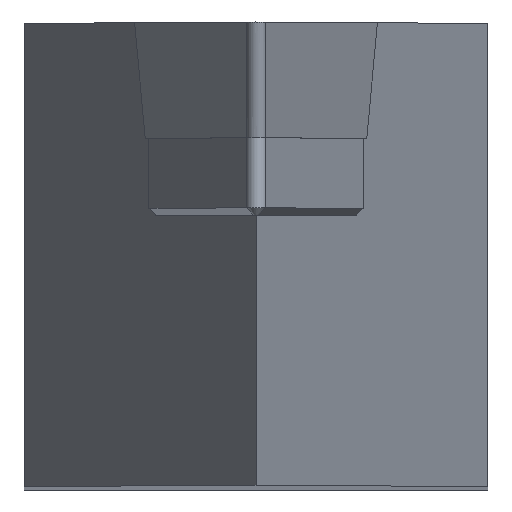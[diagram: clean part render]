
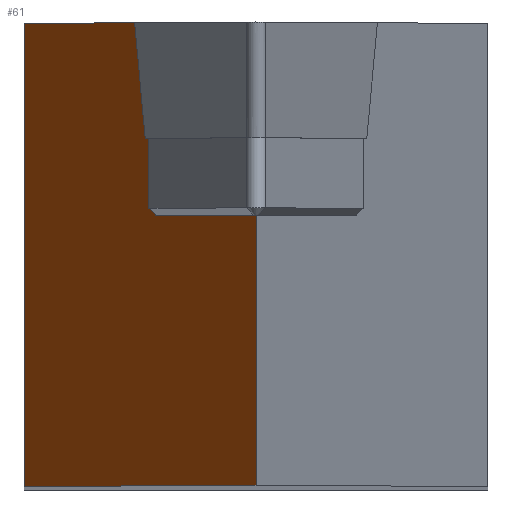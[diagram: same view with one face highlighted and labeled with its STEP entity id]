
A CAD part, top view. The second image highlights one B-rep face of the part: STEP entity #61.
In plain terms, the highlighted planar face has unit normal (-0.954, 0, 0.301).
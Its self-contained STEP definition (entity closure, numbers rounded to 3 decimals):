
#9 = ORIENTED_EDGE ( 'NONE', *, *, #163, .T. ) ;
#50 = ORIENTED_EDGE ( 'NONE', *, *, #1623, .T. ) ;
#61 = ADVANCED_FACE ( 'NONE', ( #1622 ), #953, .F. ) ;
#63 = ORIENTED_EDGE ( 'NONE', *, *, #1549, .F. ) ;
#103 = VECTOR ( 'NONE', #1402, 1000. ) ;
#104 = EDGE_CURVE ( 'NONE', #601, #385, #438, .T. ) ;
#121 = ORIENTED_EDGE ( 'NONE', *, *, #1145, .T. ) ;
#127 = DIRECTION ( 'NONE',  ( -0.301, 0., -0.954 ) ) ;
#150 = AXIS2_PLACEMENT_3D ( 'NONE', #838, #157, #1321 ) ;
#157 = DIRECTION ( 'NONE',  ( 0.954, 0., -0.301 ) ) ;
#163 = EDGE_CURVE ( 'NONE', #401, #1415, #1468, .T. ) ;
#201 = LINE ( 'NONE', #1531, #1150 ) ;
#306 = LINE ( 'NONE', #1146, #1586 ) ;
#312 = LINE ( 'NONE', #856, #1294 ) ;
#317 = ORIENTED_EDGE ( 'NONE', *, *, #1376, .T. ) ;
#354 = VERTEX_POINT ( 'NONE', #1516 ) ;
#355 = DIRECTION ( 'NONE',  ( -0.301, 0., -0.954 ) ) ;
#358 = ORIENTED_EDGE ( 'NONE', *, *, #1366, .T. ) ;
#365 = CARTESIAN_POINT ( 'NONE',  ( -0.187, 4.765, -2.992 ) ) ;
#385 = VERTEX_POINT ( 'NONE', #1498 ) ;
#401 = VERTEX_POINT ( 'NONE', #1369 ) ;
#438 = LINE ( 'NONE', #1000, #103 ) ;
#453 = ORIENTED_EDGE ( 'NONE', *, *, #104, .T. ) ;
#466 = VECTOR ( 'NONE', #1187, 1000. ) ;
#498 = CARTESIAN_POINT ( 'NONE',  ( -9.525, 9.525, -32.609 ) ) ;
#512 = VECTOR ( 'NONE', #675, 1000. ) ;
#572 = DIRECTION ( 'NONE',  ( 0., 1., 0. ) ) ;
#601 = VERTEX_POINT ( 'NONE', #643 ) ;
#643 = CARTESIAN_POINT ( 'NONE',  ( -4.459, 9.525, -16.543 ) ) ;
#675 = DIRECTION ( 'NONE',  ( 0., -1., 0. ) ) ;
#726 = VECTOR ( 'NONE', #355, 1000. ) ;
#748 = VERTEX_POINT ( 'NONE', #801 ) ;
#765 = DIRECTION ( 'NONE',  ( -0.301, 0., -0.954 ) ) ;
#784 = CARTESIAN_POINT ( 'NONE',  ( -4.459, 4.765, -16.543 ) ) ;
#799 = CARTESIAN_POINT ( 'NONE',  ( -4.138, 1.585, -15.524 ) ) ;
#801 = CARTESIAN_POINT ( 'NONE',  ( -4.138, 1.585, -15.524 ) ) ;
#806 = EDGE_LOOP ( 'NONE', ( #317, #1421, #50, #358, #63, #9, #121, #453 ) ) ;
#838 = CARTESIAN_POINT ( 'NONE',  ( -15.491, -9.525, -51.533 ) ) ;
#856 = CARTESIAN_POINT ( 'NONE',  ( -4.459, 19.325, -16.543 ) ) ;
#948 = CARTESIAN_POINT ( 'NONE',  ( 0., -9.525, -2.4 ) ) ;
#953 = PLANE ( 'NONE',  #150 ) ;
#1000 = CARTESIAN_POINT ( 'NONE',  ( -15.491, 9.525, -51.533 ) ) ;
#1017 = DIRECTION ( 'NONE',  ( 0., -1., 0. ) ) ;
#1063 = CARTESIAN_POINT ( 'NONE',  ( 0., -9.525, -2.4 ) ) ;
#1145 = EDGE_CURVE ( 'NONE', #1415, #601, #312, .T. ) ;
#1146 = CARTESIAN_POINT ( 'NONE',  ( -15.491, -9.525, -51.533 ) ) ;
#1150 = VECTOR ( 'NONE', #127, 1000. ) ;
#1187 = DIRECTION ( 'NONE',  ( 0., 1., 0. ) ) ;
#1198 = VECTOR ( 'NONE', #1017, 1000. ) ;
#1269 = LINE ( 'NONE', #498, #1198 ) ;
#1292 = EDGE_CURVE ( 'NONE', #1649, #354, #306, .T. ) ;
#1294 = VECTOR ( 'NONE', #572, 1000. ) ;
#1317 = CARTESIAN_POINT ( 'NONE',  ( 0., 1.585, -2.4 ) ) ;
#1321 = DIRECTION ( 'NONE',  ( -0.301, 0., -0.954 ) ) ;
#1366 = EDGE_CURVE ( 'NONE', #1650, #748, #201, .T. ) ;
#1369 = CARTESIAN_POINT ( 'NONE',  ( -4.138, 4.765, -15.524 ) ) ;
#1376 = EDGE_CURVE ( 'NONE', #385, #354, #1269, .T. ) ;
#1402 = DIRECTION ( 'NONE',  ( -0.301, 0., -0.954 ) ) ;
#1415 = VERTEX_POINT ( 'NONE', #784 ) ;
#1421 = ORIENTED_EDGE ( 'NONE', *, *, #1292, .F. ) ;
#1468 = LINE ( 'NONE', #365, #726 ) ;
#1498 = CARTESIAN_POINT ( 'NONE',  ( -9.525, 9.525, -32.609 ) ) ;
#1516 = CARTESIAN_POINT ( 'NONE',  ( -9.525, -9.525, -32.609 ) ) ;
#1531 = CARTESIAN_POINT ( 'NONE',  ( -7.528, 1.585, -26.275 ) ) ;
#1549 = EDGE_CURVE ( 'NONE', #401, #748, #1580, .T. ) ;
#1580 = LINE ( 'NONE', #799, #512 ) ;
#1586 = VECTOR ( 'NONE', #765, 1000. ) ;
#1598 = LINE ( 'NONE', #948, #466 ) ;
#1622 = FACE_OUTER_BOUND ( 'NONE', #806, .T. ) ;
#1623 = EDGE_CURVE ( 'NONE', #1649, #1650, #1598, .T. ) ;
#1649 = VERTEX_POINT ( 'NONE', #1063 ) ;
#1650 = VERTEX_POINT ( 'NONE', #1317 ) ;
